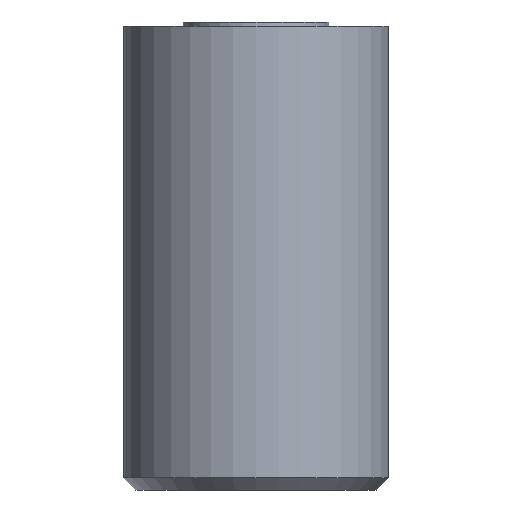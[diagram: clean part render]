
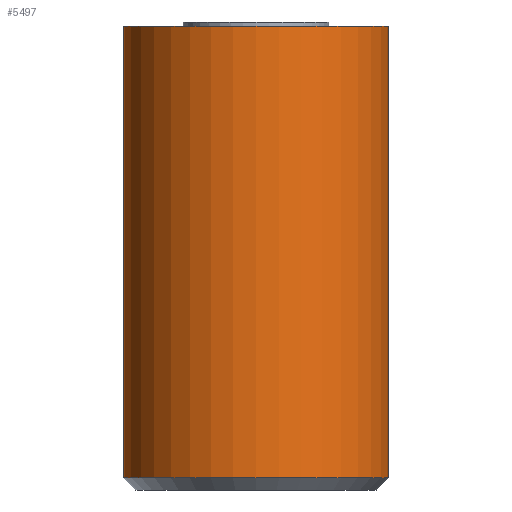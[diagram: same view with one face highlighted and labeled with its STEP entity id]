
A CAD part, front view. The second image highlights one B-rep face of the part: STEP entity #5497.
In plain terms, the highlighted cylindrical face has radius 4 mm (diameter 8 mm), a full revolution.
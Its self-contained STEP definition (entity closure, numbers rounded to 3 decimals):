
#786=CYLINDRICAL_SURFACE('',#5597,4.);
#1085=FACE_OUTER_BOUND('',#1406,.T.);
#1406=EDGE_LOOP('',(#5184,#5185,#5186,#5187));
#1771=LINE('',#11680,#2135);
#2135=VECTOR('',#6134,4.);
#2141=CIRCLE('',#5572,4.);
#2148=CIRCLE('',#5596,4.);
#2683=VERTEX_POINT('',#11612);
#2702=VERTEX_POINT('',#11676);
#3503=EDGE_CURVE('',#2683,#2683,#2141,.T.);
#3531=EDGE_CURVE('',#2702,#2702,#2148,.T.);
#3533=EDGE_CURVE('',#2683,#2702,#1771,.T.);
#5184=ORIENTED_EDGE('',*,*,#3503,.F.);
#5185=ORIENTED_EDGE('',*,*,#3533,.T.);
#5186=ORIENTED_EDGE('',*,*,#3531,.F.);
#5187=ORIENTED_EDGE('',*,*,#3533,.F.);
#5497=ADVANCED_FACE('',(#1085),#786,.T.);
#5572=AXIS2_PLACEMENT_3D('',#11613,#6060,#6061);
#5596=AXIS2_PLACEMENT_3D('',#11677,#6129,#6130);
#5597=AXIS2_PLACEMENT_3D('',#11679,#6132,#6133);
#6060=DIRECTION('center_axis',(0.,0.,1.));
#6061=DIRECTION('ref_axis',(1.,0.,0.));
#6129=DIRECTION('center_axis',(0.,0.,-1.));
#6130=DIRECTION('ref_axis',(1.,0.,0.));
#6132=DIRECTION('center_axis',(0.,0.,1.));
#6133=DIRECTION('ref_axis',(1.,0.,0.));
#6134=DIRECTION('',(0.,0.,-1.));
#11612=CARTESIAN_POINT('',(-4.,0.,14.));
#11613=CARTESIAN_POINT('Origin',(0.,0.,14.));
#11676=CARTESIAN_POINT('',(-4.,0.,0.37));
#11677=CARTESIAN_POINT('Origin',(0.,0.,0.37));
#11679=CARTESIAN_POINT('Origin',(0.,0.,0.));
#11680=CARTESIAN_POINT('',(-4.,0.,0.));
